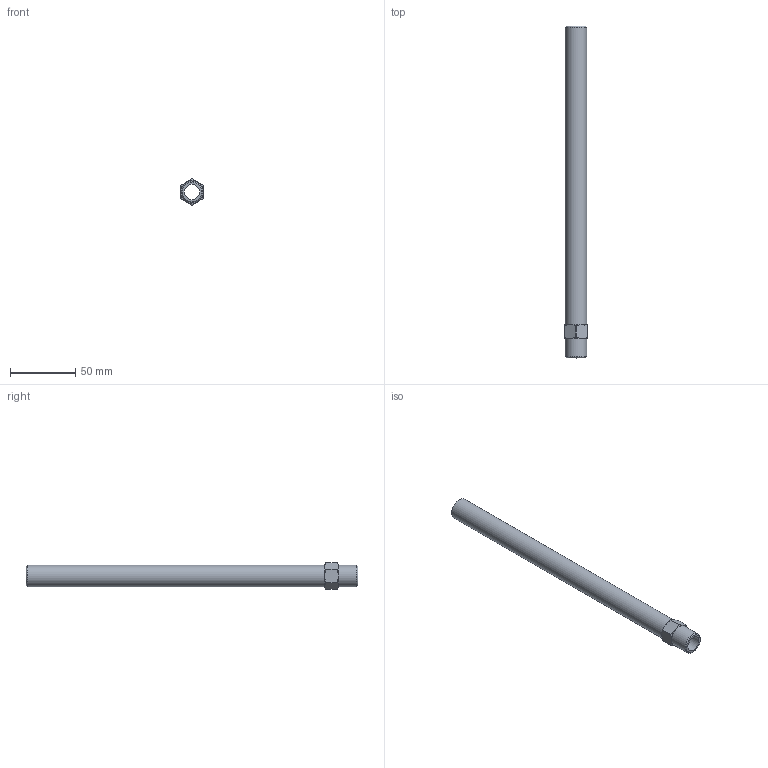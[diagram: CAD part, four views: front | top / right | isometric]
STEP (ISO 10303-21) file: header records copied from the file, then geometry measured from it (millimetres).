
FILE_DESCRIPTION(/* description */ (''),/* implementation_level */ '2;1');
FILE_NAME(/* name */ 'C:/Users/drich/Desktop/APN38-10 v1.step',/* time_stamp */ '2019-12-27T17:54:58-06:00',/* author */ (''),/* organization */ (''),/* preprocessor_version */ 'ST-DEVELOPER v18',/* originating_system */ 'Autodesk Translation Framework v8.12.0.6',/* authorisation */ '');
FILE_SCHEMA (('AUTOMOTIVE_DESIGN { 1 0 10303 214 3 1 1 }'));
Length unit declared in the file: inch
Products named in the file (1): APN38-10
Bounding box: 17.45 x 254 x 20.12 mm (x, y, z)
Volume: 26823.7 mm3; surface area: 23003.5 mm2
Topology: 1 solids, 1 shells, 33 faces, 89 edges, 60 vertices
Faces by surface type: cone 14, plane 10, cylinder 9
Full cylindrical faces by diameter (mm): 11.887 x1, 16.537 x2
Entity records: 1077 total; most frequent: CARTESIAN_POINT 231, ORIENTED_EDGE 178, DIRECTION 169, EDGE_CURVE 89, AXIS2_PLACEMENT_3D 70, VERTEX_POINT 60, EDGE_LOOP 37, CIRCLE 36
